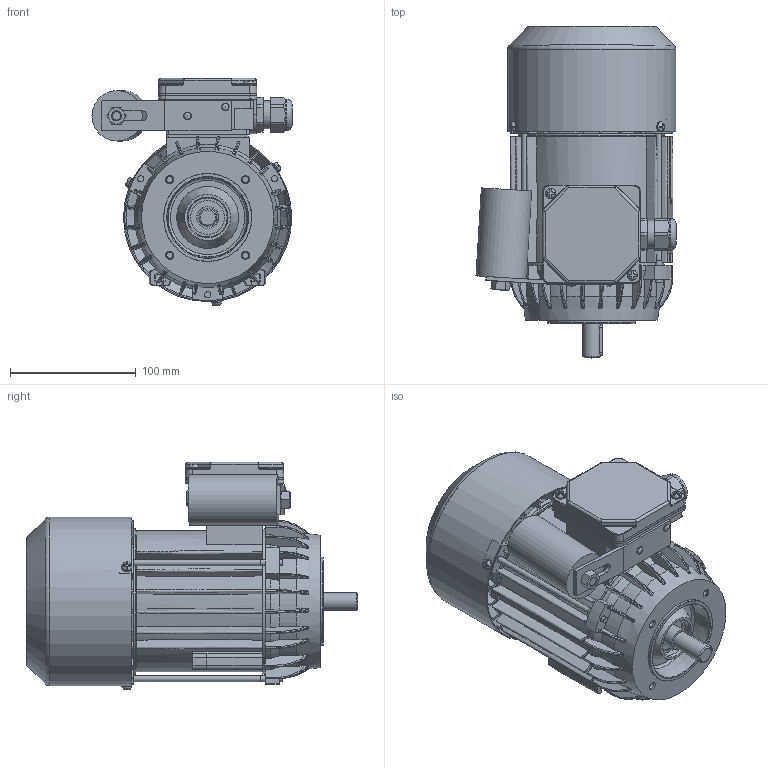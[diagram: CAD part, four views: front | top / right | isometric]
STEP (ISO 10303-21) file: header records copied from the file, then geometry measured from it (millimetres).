
FILE_DESCRIPTION( ( 'Unknown' ), '1' );
FILE_NAME( 'G:/Poczta Tk-1/STP/w.m.71/SEh71/SEKh71-C2.stp', 'Unknown', ( 'K. Szlosek' ), ( 'BESEL S.A.' ), 'PSStep 17.0.49', 'Unknown', ' ' );
FILE_SCHEMA( ( 'AUTOMOTIVE_DESIGN { 1 0 10303 214 1 1 1 1 }' ) );
Length unit declared in the file: millimetre
Products named in the file (34): skrznka zaciskowa jednofazowa ; K4-2820 Uszczelka nr 2 Sh71,80; K2-1131 Podstawa skrzynki zaciskowej jednofazowa; K4-2999 Uchwyt kondensatora; Nit 4x12 po skróceniu; nakrętka M8; K4-0898 Tulejka uszczelniająca; Dławnica M20x1,5; K2-0860 Pokrywka skrzynki zaciskowej; Assem1; K3-2975 Osłona przewietrznika Sh71-.B,C; K4-2320 Uszczelka nr 1 Sh71,80; K1-1194 Kadłub z zamkami Sh71-.C; K3-6469 Tarcza łożyskowa P S(E,M)h71-B,C; Wpust A5x5x25; Wkręt samogwintujący M4x8; Nitokołek A 2x6; k3-4489 Wał SKh71 x-2C1; Wkręt samogwintujący M4x16; Kondensator zb 11-16uF Comar; K3-3984 Przewietrznik Sh71; Łożysko 6203; Śruba ściągająca E_M5x130; Tabliczka znamionowa 32x44; K1-1245 Tarcza kołnierzowa B14_2 w.m. 71
Assembly tree (50 placements, depth 3):
  Assem1
    K3-2975 Osłona przewietrznika Sh71-.B,C
    K4-2320 Uszczelka nr 1 Sh71,80
    K1-1194 Kadłub z zamkami Sh71-.C
    K3-6469 Tarcza łożyskowa P S(E,M)h71-B,C
    Wpust A5x5x25
    Wkręt samogwintujący M4x8  x3
    Nitokołek A 2x6  x2
    k3-4489 Wał SKh71 x-2C1
    Wkręt samogwintujący M4x16  x2
    Kondensator zb 11-16uF Comar
    K3-3984 Przewietrznik Sh71
    Łożysko 6203  x2
    Łożysko 6203  x2
    Łożysko 6203  x2
    Łożysko 6203  x2
    Łożysko 6203  x2
    Łożysko 6203  x2
    Łożysko 6203  x2
    Łożysko 6203  x2
    Łożysko 6203  x2
    Łożysko 6203  x2
    Śruba ściągająca E_M5x130  x3
    Tabliczka znamionowa 32x44
    K1-1245 Tarcza kołnierzowa B14_2 w.m. 71
    skrznka zaciskowa jednofazowa 
      K4-2820 Uszczelka nr 2 Sh71,80
      K2-1131 Podstawa skrzynki zaciskowej jednofazowa
      K4-2999 Uchwyt kondensatora
      Nit 4x12 po skróceniu  x2
      nakrętka M8
      K4-0898 Tulejka uszczelniająca
      Dławnica M20x1,5
      K2-0860 Pokrywka skrzynki zaciskowej
Bounding box: 158.81 x 263.5 x 180.57 mm (x, y, z)
Volume: 720492.4 mm3; surface area: 464687.2 mm2
Topology: 49 solids, 65 shells, 2585 faces, 7018 edges, 4506 vertices
Faces by surface type: plane 1006, cylinder 745, bspline 401, torus 200, cone 191, sphere 42
Full cylindrical faces by diameter (mm): 2 x2, 2.4 x2, 3 x1, 3.7 x7, 3.8 x4, 4 x7, 4.3 x2, 4.5 x3, 4.6 x3, 4.8 x4, 4.917 x4, 5 x10, 5.5 x3, 6 x2, 6.5 x1, 6.647 x1, 7 x1, 8 x10, 10 x2, 14 x1, 15.9 x1, 16.1 x1, 16.5 x1, 17 x4, 17.4 x2, 18.376 x1, 18.38 x1, 20 x1, 22 x2, 22.3 x1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
Entity records: 158198 total; most frequent: CARTESIAN_POINT 81209, ORIENTED_EDGE 12510, DIRECTION 10987, EDGE_CURVE 6255, AXIS2_PLACEMENT_3D 4233, VERTEX_POINT 4167, EDGE_LOOP 2838, FACE_OUTER_BOUND 2527
